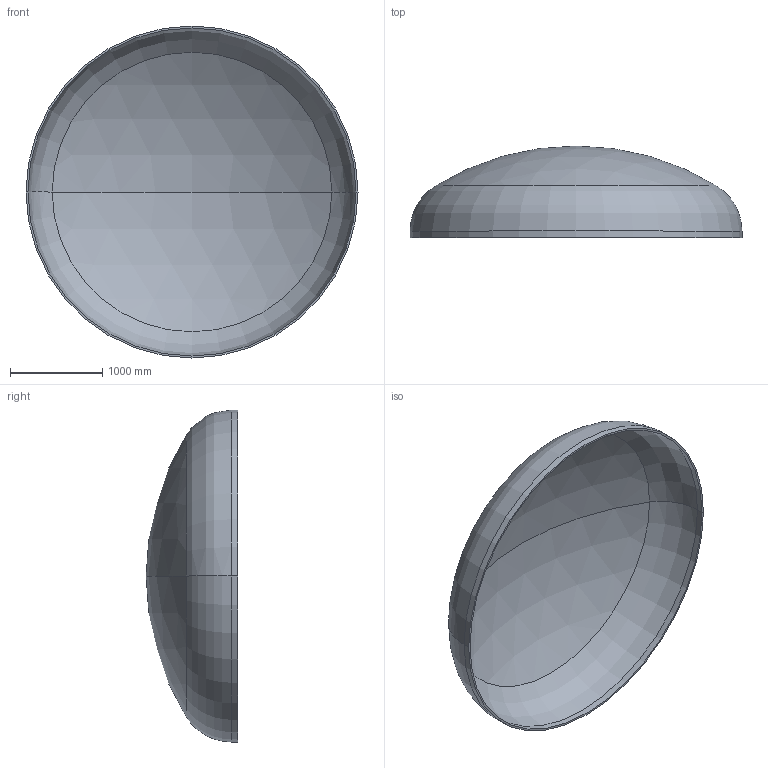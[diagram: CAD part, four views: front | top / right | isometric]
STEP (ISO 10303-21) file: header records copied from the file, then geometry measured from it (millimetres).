
FILE_DESCRIPTION (( 'STEP AP203' ), '1' );
FILE_NAME ('DIN 28013 Korbbogenform_-_Boden DIN 28013 - 3600 x 70 - I - s=21.step', '2016-07-01T20:11:50', ( '' ), ( '' ), 'SwSTEP 2.0', 'SolidWorks 2013', '' );
FILE_SCHEMA (( 'CONFIG_CONTROL_DESIGN' ));
Length unit declared in the file: millimetre
Products named in the file (1): DIN 28013 Korbbogenform_-_Boden DIN 28013 - 3600 x 70 - I - s=21
Bounding box: 3600 x 994.27 x 3600 mm (x, y, z)
Volume: 310369301.5 mm3; surface area: 29796012.2 mm2
Topology: 1 solids, 1 shells, 13 faces, 24 edges, 14 vertices
Faces by surface type: torus 4, cylinder 4, sphere 4, plane 1
Entity records: 407 total; most frequent: DIRECTION 72, CARTESIAN_POINT 52, ORIENTED_EDGE 48, AXIS2_PLACEMENT_3D 34, EDGE_CURVE 24, CIRCLE 20, EDGE_LOOP 14, VERTEX_POINT 14
